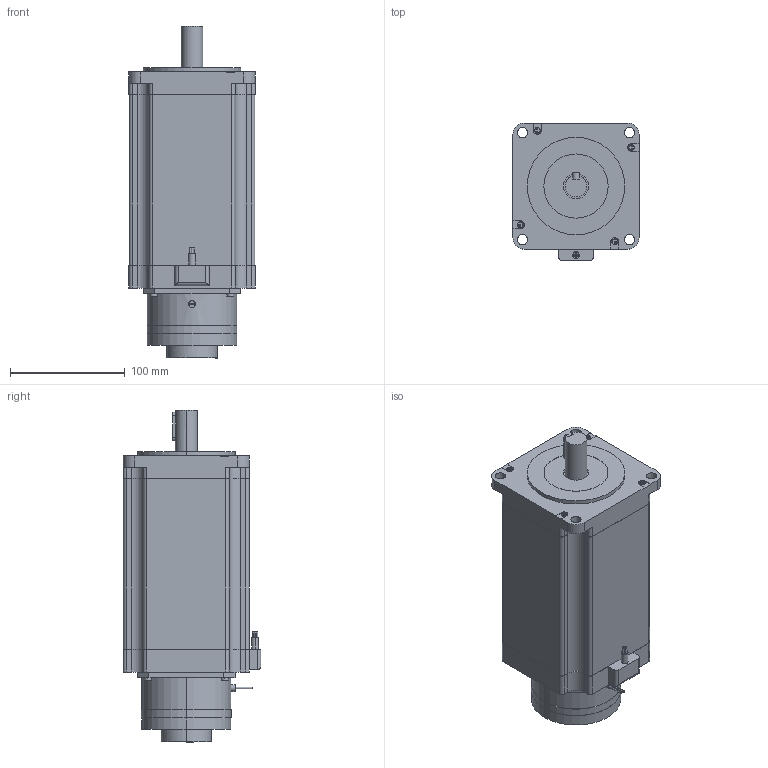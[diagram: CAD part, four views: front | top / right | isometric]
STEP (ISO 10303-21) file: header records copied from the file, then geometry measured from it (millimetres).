
FILE_DESCRIPTION (( 'STEP AP203' ), '1' );
FILE_NAME ('UB110D24-D60-4201.STEP', '2019-10-25T06:20:54', ( 'China' ), ( 'Home' ), 'SwSTEP 2.0', 'SolidWorks 2016', '' );
FILE_SCHEMA (( 'CONFIG_CONTROL_DESIGN' ));
Length unit declared in the file: millimetre
Products named in the file (1): UB110D24-D60-4201
Bounding box: 110 x 120 x 289.5 mm (x, y, z)
Volume: 2366354.1 mm3; surface area: 145356.7 mm2
Topology: 2 solids, 3 shells, 296 faces, 761 edges, 506 vertices
Faces by surface type: plane 186, cylinder 110
Entity records: 9701 total; most frequent: CARTESIAN_POINT 2232, DIRECTION 1532, ORIENTED_EDGE 1522, EDGE_CURVE 761, LINE 536, VECTOR 536, VERTEX_POINT 506, AXIS2_PLACEMENT_3D 498
